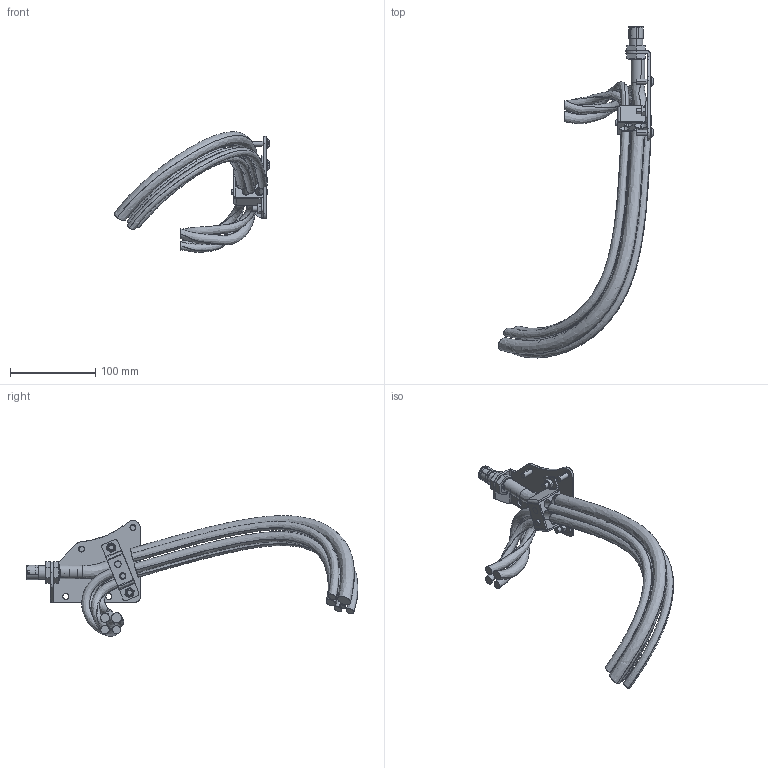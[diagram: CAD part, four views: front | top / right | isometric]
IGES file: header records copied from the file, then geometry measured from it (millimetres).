
Start section: SolidWorks IGES file using analytic representation for surfaces
Global section: file name: C:\Data\Lättmodeller\Nytt\2600\2600_IRC5_IGES_j\IRB2600_12-165_CABLES_LINK3_rev00.IGS; native system: SolidWorks 2014; preprocessor: SolidWorks 2014; author: seadbov; date: 161202.113326; units: millimetre
Bounding box: 181.96 x 388.54 x 141.23 mm (x, y, z)
Surface area: 138357.4 mm2 (no closed solid volume)
Topology: 0 solids, 0 shells, 362 faces, 6780 edges, 6780 vertices
Faces by surface type: bspline 188, revolution 174
